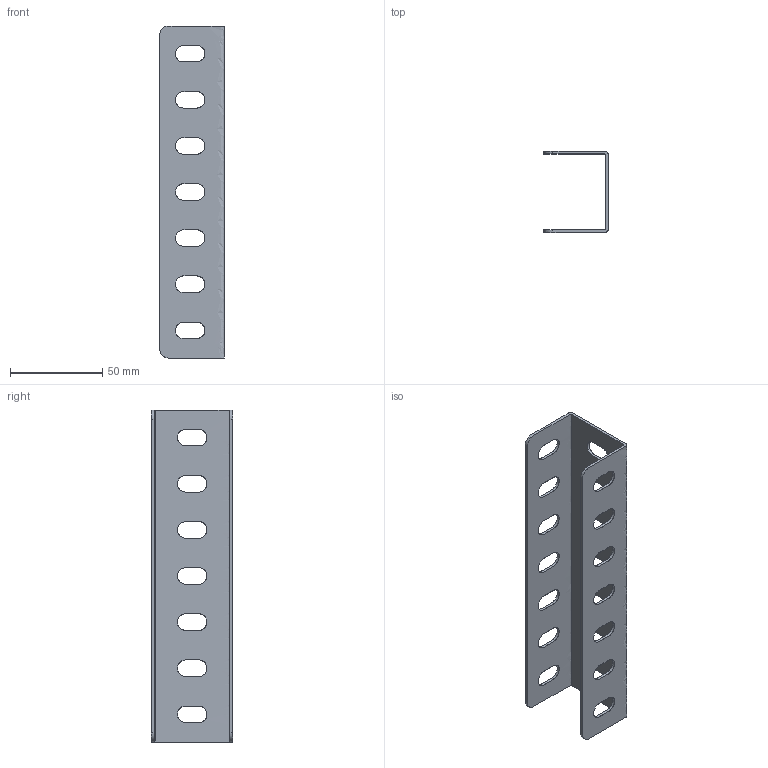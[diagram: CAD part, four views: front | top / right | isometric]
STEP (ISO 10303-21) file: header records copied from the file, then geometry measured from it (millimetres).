
FILE_DESCRIPTION(/* description */ (''),/* implementation_level */ '2;1');
FILE_NAME(/* name */ 'SSPM',/* time_stamp */ '2012-11-29T22:17:34+01:00',/* author */ (''),/* organization */ (''),/* preprocessor_version */ 'ST-DEVELOPER v10',/* originating_system */ '',/* authorisation */ '');
FILE_SCHEMA (('AUTOMOTIVE_DESIGN_CC2'));
Length unit declared in the file: millimetre
Products named in the file (1): 1
Bounding box: 35 x 44 x 180 mm (x, y, z)
Surface area: 36096.6 mm2 (no closed solid volume)
Topology: 0 solids, 32 shells, 53 faces, 222 edges, 180 vertices
Faces by surface type: bspline 49, plane 4
Entity records: 4131 total; most frequent: CARTESIAN_POINT 2814, ORIENTED_EDGE 264, EDGE_CURVE 222, VERTEX_POINT 180, EDGE_LOOP 95, ADVANCED_FACE 53, FACE_OUTER_BOUND 53, B_SPLINE_CURVE_WITH_KNOTS 52
